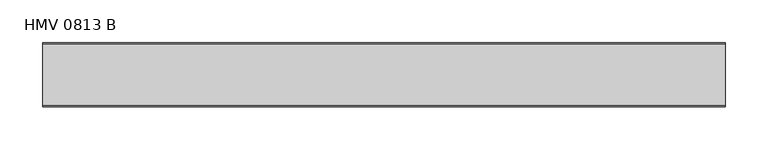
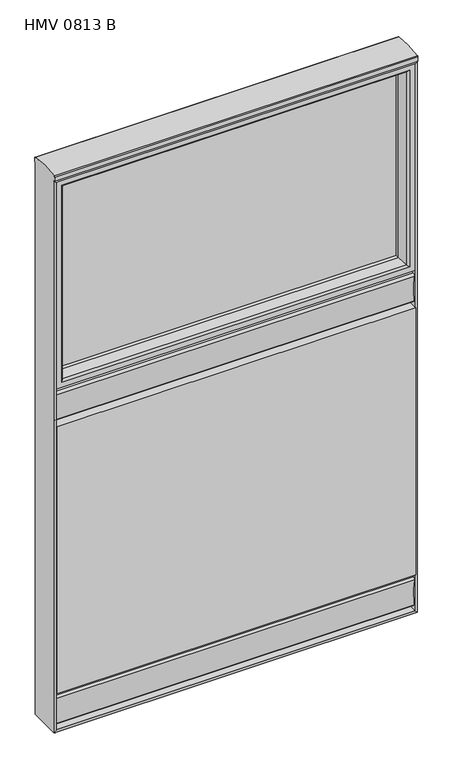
"""IFC4 building model written with IfcOpenShell, lengths in millimetres: furniture geometry, Mobiliário_MobiliáriodeEscritório_LinhaHabitat_PainelHabitatMisto-MelaminaeVidroBasculante1Lado_Marelli : HMV 0813 B."""

from ifc_helpers import new_model, si_unit, point, frame, frame_2d, origin, place, context, project, spatial, polyline, circle_curve, ellipse_curve, trimmed, segment, composite_curve, outline, extrude, source, transform, mapped, element, save
from ifc_brep_helpers import plane_surface, cylinder_surface, advanced_brep


def hmv_0813_b_0aa352a4(model_context):
    return source(origin(), model_context, "Body", "SolidModel", [
        extrude(outline(composite_curve([segment(polyline([(55.0, 90.0), (55.0, 80.0), (65.980067, 80.0)]), True, "CONTINUOUS"), segment(trimmed(circle_curve(frame_2d((65.980067, 75.980067)), 4.019933), [point((65.980067, 80.0))], [point((69.831007, 74.8267575))], False, "CARTESIAN"), True, "CONTINUOUS"), segment(trimmed(circle_curve(frame_2d((200.7096213, 43.9493843)), 134.4716471), [point((69.831007, 74.8267575))], [point((68.9861321, 16.9022723))], True, "CARTESIAN"), True, "CONTINUOUS"), segment(trimmed(circle_curve(frame_2d((67.0270055, 16.5)), 2.0), [point((68.9861321, 16.9022723))], [point((67.0270055, 14.5))], False, "CARTESIAN"), True, "CONTINUOUS"), segment(polyline([(67.0270055, 14.5), (55.0, 14.5), (55.0, 4.5), (20.0, 4.5), (20.0, 14.5), (7.9729945, 14.5)]), True, "CONTINUOUS"), segment(trimmed(circle_curve(frame_2d((7.9729945, 16.5)), 2.0), [point((7.9729945, 14.5))], [point((6.0138679, 16.9022723))], False, "CARTESIAN"), True, "CONTINUOUS"), segment(trimmed(circle_curve(frame_2d((-125.7096213, 43.9493843)), 134.4716471), [point((6.0138679, 16.9022723))], [point((5.168993, 74.8267575))], True, "CARTESIAN"), True, "CONTINUOUS"), segment(trimmed(circle_curve(frame_2d((9.019933, 75.980067)), 4.019933), [point((5.168993, 74.8267575))], [point((9.019933, 80.0))], False, "CARTESIAN"), True, "CONTINUOUS"), segment(polyline([(9.019933, 80.0), (20.0, 80.0), (20.0, 90.0), (55.0, 90.0)]), True, "CONTINUOUS")], self_intersect=False)), frame((4.5, 0.0, 0.0), z_axis=(1.0, 0.0, 0.0), x_axis=(0.0, 1.0, 0.0)), (0.0, 0.0, 1.0), 791.0),
        advanced_brep(
        [(0.0, 0.0, 1284.4135569), (0.0, 0.0, 1294.184829), (0.0, 1.4147018, 1296.2946718), (0.0, 73.7415241, 1296.2666026), (0.0, 75.0, 1294.2721511), (0.0, 75.0, 1284.4135569), (0.0, 72.75, 1284.4135569), (0.0, 72.75, 0.0), (0.0, 2.25, 0.0), (0.0, 2.25, 1284.4135569), (800.0, 75.0, 1284.4135569), (800.0, 75.0, 1294.2721511), (800.0, 73.7415241, 1296.2666026), (800.0, 1.4147018, 1296.2946718), (800.0, 0.0, 1294.184829), (800.0, 0.0, 1284.4135569), (800.0, 2.25, 1284.4135569), (800.0, 2.25, 0.0), (800.0, 72.75, 0.0), (800.0, 72.75, 1284.4135569), (4.5, 72.75, 4.5), (795.5, 72.75, 4.5), (795.5, 2.25, 4.5), (4.5, 2.25, 4.5), (795.5, 72.75, 1279.9135569), (795.5, 2.25, 1279.9135569), (4.5, 72.75, 1279.9135569), (4.5, 2.25, 1279.9135569)],
        [
            (0, 1),
            (1, 2, circle_curve(frame((0.0, 2.2806283, 1294.184829), z_axis=(-1.0, 0.0, 0.0), x_axis=(0.0, 1.0, 0.0)), 2.2806283)),
            (2, 3, circle_curve(frame((0.0, 37.5106051, 1122.3310283), z_axis=(-1.0, 0.0, 0.0), x_axis=(0.0, 1.0, 0.0)), 177.6689717)),
            (3, 4, circle_curve(frame((0.0, 72.7903437, 1294.2721511), z_axis=(-1.0, 0.0, 0.0), x_axis=(0.0, 1.0, 0.0)), 2.2096563)),
            (4, 5),
            (5, 6),
            (6, 7),
            (7, 8),
            (8, 9),
            (9, 0),
            (10, 11),
            (11, 12, circle_curve(frame((800.0, 72.7903437, 1294.2721511), z_axis=(1.0, 0.0, 0.0), x_axis=(0.0, 1.0, 0.0)), 2.2096563)),
            (12, 13, circle_curve(frame((800.0, 37.5106051, 1122.3310283), z_axis=(1.0, 0.0, 0.0), x_axis=(0.0, 1.0, 0.0)), 177.6689717)),
            (13, 14, circle_curve(frame((800.0, 2.2806283, 1294.184829), z_axis=(1.0, 0.0, 0.0), x_axis=(0.0, 1.0, 0.0)), 2.2806283)),
            (14, 15),
            (15, 16),
            (16, 17),
            (17, 18),
            (18, 19),
            (19, 10),
            (4, 11),
            (10, 5),
            (3, 12),
            (2, 13),
            (1, 14),
            (0, 15),
            (19, 6),
            (9, 16),
            (7, 20, ellipse_curve(frame((2.25, 72.75, 2.25), z_axis=(0.7071067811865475, 0.0, -0.7071067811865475), x_axis=(-0.7071067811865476, 0.0, -0.7071067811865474)), 3.1819805, 2.25)),
            (20, 21),
            (21, 18, ellipse_curve(frame((797.75, 72.75, 2.25), z_axis=(-0.7071067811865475, 0.0, -0.7071067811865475), x_axis=(-0.7071067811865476, 0.0, 0.7071067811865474)), 3.1819805, 2.25)),
            (18, 7),
            (17, 8),
            (17, 22, ellipse_curve(frame((797.75, 2.25, 2.25), z_axis=(-0.7071067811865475, 0.0, -0.7071067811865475), x_axis=(-0.7071067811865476, 0.0, 0.7071067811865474)), 3.1819805, 2.25)),
            (22, 23),
            (23, 8, ellipse_curve(frame((2.25, 2.25, 2.25), z_axis=(0.7071067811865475, 0.0, -0.7071067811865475), x_axis=(-0.7071067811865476, 0.0, -0.7071067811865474)), 3.1819805, 2.25)),
            (20, 23),
            (22, 21),
            (21, 24),
            (24, 19, ellipse_curve(frame((797.75, 72.75, 1282.1635569), z_axis=(0.7071067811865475, 0.0, -0.7071067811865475), x_axis=(-0.7071067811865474, 0.0, -0.7071067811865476)), 3.1819805, 2.25)),
            (16, 25, ellipse_curve(frame((797.75, 2.25, 1282.1635569), z_axis=(0.7071067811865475, 0.0, -0.7071067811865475), x_axis=(-0.7071067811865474, 0.0, -0.7071067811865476)), 3.1819805, 2.25)),
            (25, 22),
            (25, 24),
            (24, 26),
            (26, 6, ellipse_curve(frame((2.25, 72.75, 1282.1635569), z_axis=(0.7071067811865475, 0.0, 0.7071067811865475), x_axis=(0.7071067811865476, 0.0, -0.7071067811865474)), 3.1819805, 2.25)),
            (9, 27, ellipse_curve(frame((2.25, 2.25, 1282.1635569), z_axis=(0.7071067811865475, 0.0, 0.7071067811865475), x_axis=(0.7071067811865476, 0.0, -0.7071067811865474)), 3.1819805, 2.25)),
            (27, 25),
            (27, 26),
            (26, 20),
            (23, 27),
        ],
        [
            plane_surface(frame((0.0, 75.0, 1294.2721511), z_axis=(-1.0, 0.0, 0.0), x_axis=(0.0, 0.0, -1.0))),
            plane_surface(frame((800.0, 75.0, 1294.2721511), z_axis=(1.0, 0.0, 0.0), x_axis=(0.0, 0.0, 1.0))),
            plane_surface(frame((800.0, 75.0, 1284.4135569), z_axis=(0.0, 1.0, 0.0), x_axis=(-1.0, 0.0, 0.0))),
            cylinder_surface(frame((0.0, 72.7903437, 1294.2721511), z_axis=(1.0, 0.0, 0.0), x_axis=(0.0, 1.0, 0.0)), 2.2096563),
            cylinder_surface(frame((0.0, 37.5106051, 1122.3310283), z_axis=(1.0, 0.0, 0.0), x_axis=(0.0, 1.0, 0.0)), 177.6689717),
            cylinder_surface(frame((0.0, 2.2806283, 1294.184829), z_axis=(1.0, 0.0, 0.0), x_axis=(0.0, 1.0, 0.0)), 2.2806283),
            plane_surface(frame((800.0, 0.0, 1294.184829), z_axis=(0.0, -1.0, 0.0), x_axis=(-1.0, 0.0, 0.0))),
            plane_surface(frame((800.0, 0.0, 1284.4135569), z_axis=(0.0, 0.0, -1.0), x_axis=(-1.0, 0.0, 0.0))),
            cylinder_surface(frame((0.0, 72.75, 2.25), z_axis=(-1.0, 0.0, 0.0), x_axis=(0.0, -1.0, 0.0)), 2.25),
            plane_surface(frame((0.0, 72.75, 0.0), z_axis=(0.0, 0.0, -1.0), x_axis=(1.0, 0.0, 0.0))),
            cylinder_surface(frame((0.0, 2.25, 2.25), z_axis=(-1.0, 0.0, 0.0), x_axis=(0.0, -1.0, 0.0)), 2.25),
            plane_surface(frame((4.5, 2.25, 4.5), z_axis=(0.0, 0.0, 1.0), x_axis=(1.0, 0.0, 0.0))),
            cylinder_surface(frame((797.75, 72.75, 0.0), z_axis=(0.0, 0.0, -1.0), x_axis=(0.0, -1.0, 0.0)), 2.25),
            cylinder_surface(frame((797.75, 2.25, 0.0), z_axis=(0.0, 0.0, -1.0), x_axis=(0.0, -1.0, 0.0)), 2.25),
            plane_surface(frame((795.5, 2.25, 4.5), z_axis=(-1.0, 0.0, 0.0), x_axis=(0.0, 0.0, 1.0))),
            cylinder_surface(frame((800.0, 72.75, 1282.1635569), z_axis=(1.0, 0.0, 0.0), x_axis=(0.0, -1.0, 0.0)), 2.25),
            cylinder_surface(frame((800.0, 2.25, 1282.1635569), z_axis=(1.0, 0.0, 0.0), x_axis=(0.0, -1.0, 0.0)), 2.25),
            plane_surface(frame((795.5, 2.25, 1279.9135569), z_axis=(0.0, 0.0, -1.0), x_axis=(-1.0, 0.0, 0.0))),
            cylinder_surface(frame((2.25, 72.75, 1284.4135569), z_axis=(0.0, 0.0, 1.0), x_axis=(0.0, -1.0, 0.0)), 2.25),
            cylinder_surface(frame((2.25, 2.25, 1284.4135569), z_axis=(0.0, 0.0, 1.0), x_axis=(0.0, -1.0, 0.0)), 2.25),
            plane_surface(frame((4.5, 2.25, 1279.9135569), z_axis=(1.0, 0.0, 0.0), x_axis=(0.0, 0.0, -1.0))),
        ],
        [
            (0, [[1, 2, 3, 4, 5, 6, 7, 8, 9, 10]]),
            (1, [[11, 12, 13, 14, 15, 16, 17, 18, 19, 20]]),
            (2, [[-5, 21, -11, 22]]),
            (3, [[-4, 23, -12, -21]]),
            (4, [[-3, 24, -13, -23]]),
            (5, [[-2, 25, -14, -24]]),
            (6, [[-1, 26, -15, -25]]),
            (7, [[-22, -20, 27, -6]]),
            (7, [[-26, -10, 28, -16]]),
            (8, [[29, 30, 31, 32]]),
            (9, [[-32, -18, 33, -8]]),
            (10, [[-33, 34, 35, 36]]),
            (11, [[-30, 37, -35, 38]]),
            (12, [[-31, 39, 40, -19]]),
            (13, [[-34, -17, 41, 42]]),
            (14, [[-38, -42, 43, -39]]),
            (15, [[-40, 44, 45, -27]]),
            (16, [[-41, -28, 46, 47]]),
            (17, [[-43, -47, 48, -44]]),
            (18, [[-29, -7, -45, 49]]),
            (19, [[-36, 50, -46, -9]]),
            (20, [[-37, -49, -48, -50]]),
        ],
    ),
        extrude(outline(composite_curve([segment(polyline([(55.0, 797.5), (55.0, 787.5), (65.980067, 787.5)]), True, "CONTINUOUS"), segment(trimmed(circle_curve(frame_2d((65.980067, 783.480067)), 4.019933), [point((65.980067, 787.5))], [point((69.831007, 782.3267575))], False, "CARTESIAN"), True, "CONTINUOUS"), segment(trimmed(circle_curve(frame_2d((200.7096213, 751.4493843)), 134.4716471), [point((69.831007, 782.3267575))], [point((68.9861321, 724.4022723))], True, "CARTESIAN"), True, "CONTINUOUS"), segment(trimmed(circle_curve(frame_2d((67.0270055, 724.0)), 2.0), [point((68.9861321, 724.4022723))], [point((67.0270055, 722.0))], False, "CARTESIAN"), True, "CONTINUOUS"), segment(polyline([(67.0270055, 722.0), (55.0, 722.0), (55.0, 712.0), (20.0, 712.0), (20.0, 722.0), (7.9729945, 722.0)]), True, "CONTINUOUS"), segment(trimmed(circle_curve(frame_2d((7.9729945, 724.0)), 2.0), [point((7.9729945, 722.0))], [point((6.0138679, 724.4022723))], False, "CARTESIAN"), True, "CONTINUOUS"), segment(trimmed(circle_curve(frame_2d((-125.7096213, 751.4493843)), 134.4716471), [point((6.0138679, 724.4022723))], [point((5.168993, 782.3267575))], True, "CARTESIAN"), True, "CONTINUOUS"), segment(trimmed(circle_curve(frame_2d((9.019933, 783.480067)), 4.019933), [point((5.168993, 782.3267575))], [point((9.019933, 787.5))], False, "CARTESIAN"), True, "CONTINUOUS"), segment(polyline([(9.019933, 787.5), (20.0, 787.5), (20.0, 797.5), (55.0, 797.5)]), True, "CONTINUOUS")], self_intersect=False)), frame((4.5, 0.0, 0.0), z_axis=(1.0, 0.0, 0.0), x_axis=(0.0, 1.0, 0.0)), (0.0, 0.0, 1.0), 791.0),
        extrude(outline(polyline([(0.0, 712.0), (70.0, 712.0), (70.0, 797.5), (75.0, 797.5), (75.0, 712.0), (75.0, 90.0), (0.0, 90.0), (0.0, 712.0)])), frame((4.5, 0.0, 0.0), z_axis=(1.0, 0.0, 0.0), x_axis=(0.0, 1.0, 0.0)), (0.0, 0.0, 1.0), 791.0),
        advanced_brep(
        [(795.5, 2.5, 797.5), (795.5, 72.5, 797.5), (795.5, 72.5, 1279.9135569), (795.5, 2.5, 1279.9135569), (779.3, 6.3, 813.7), (783.1, 2.5, 809.9), (783.1, 2.5, 1267.5135569), (779.3, 6.3, 1263.7135569), (773.0, 27.5, 820.0), (773.0, 27.5, 1257.4135569), (773.0, 47.5, 820.0), (773.0, 47.5, 1257.4135569), (779.3, 68.7, 813.7), (779.3, 68.7, 1263.7135569), (783.1, 72.5, 809.9), (783.1, 72.5, 1267.5135569), (4.5, 72.5, 1279.9135569), (4.5, 2.5, 1279.9135569), (16.9, 2.5, 1267.5135569), (20.7, 6.3, 1263.7135569), (27.0, 27.5, 1257.4135569), (27.0, 47.5, 1257.4135569), (20.7, 68.7, 1263.7135569), (16.9, 72.5, 1267.5135569), (4.5, 72.5, 797.5), (4.5, 2.5, 797.5), (16.9, 2.5, 809.9), (20.7, 6.3, 813.7), (27.0, 27.5, 820.0), (27.0, 47.5, 820.0), (20.7, 68.7, 813.7), (16.9, 72.5, 809.9)],
        [
            (0, 1),
            (1, 2),
            (2, 3),
            (3, 0),
            (4, 5, ellipse_curve(frame((785.2236888, 8.4236888, 807.7763112), z_axis=(0.7071067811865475, 0.0, 0.7071067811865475), x_axis=(0.7071067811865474, 0.0, -0.7071067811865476)), 8.8994542, 6.2928644)),
            (5, 6),
            (6, 7, ellipse_curve(frame((785.2236888, 8.4236888, 1269.6372457), z_axis=(0.7071067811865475, 0.0, -0.7071067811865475), x_axis=(-0.7071067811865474, 0.0, -0.7071067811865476)), 8.8994542, 6.2928644)),
            (7, 4),
            (8, 4),
            (7, 9),
            (9, 8),
            (10, 8),
            (9, 11),
            (11, 10),
            (12, 10),
            (11, 13),
            (13, 12),
            (14, 12, ellipse_curve(frame((785.2236888, 66.5763112, 807.7763112), z_axis=(0.7071067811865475, 0.0, 0.7071067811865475), x_axis=(0.7071067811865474, 0.0, -0.7071067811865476)), 8.8994542, 6.2928644)),
            (13, 15, ellipse_curve(frame((785.2236888, 66.5763112, 1269.6372457), z_axis=(0.7071067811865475, 0.0, -0.7071067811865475), x_axis=(-0.7071067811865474, 0.0, -0.7071067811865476)), 8.8994542, 6.2928644)),
            (15, 14),
            (2, 16),
            (16, 17),
            (17, 3),
            (6, 18),
            (18, 19, ellipse_curve(frame((14.7763112, 8.4236888, 1269.6372457), z_axis=(0.7071067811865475, 0.0, 0.7071067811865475), x_axis=(0.7071067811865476, 0.0, -0.7071067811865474)), 8.8994542, 6.2928644)),
            (19, 7),
            (19, 20),
            (20, 9),
            (20, 21),
            (21, 11),
            (21, 22),
            (22, 13),
            (22, 23, ellipse_curve(frame((14.7763112, 66.5763112, 1269.6372457), z_axis=(0.7071067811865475, 0.0, 0.7071067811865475), x_axis=(0.7071067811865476, 0.0, -0.7071067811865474)), 8.8994542, 6.2928644)),
            (23, 15),
            (16, 24),
            (24, 25),
            (25, 17),
            (18, 26),
            (26, 27, ellipse_curve(frame((14.7763112, 8.4236888, 807.7763112), z_axis=(-0.7071067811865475, 0.0, 0.7071067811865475), x_axis=(0.7071067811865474, 0.0, 0.7071067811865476)), 8.8994542, 6.2928644)),
            (27, 19),
            (27, 28),
            (28, 20),
            (28, 29),
            (29, 21),
            (29, 30),
            (30, 22),
            (30, 31, ellipse_curve(frame((14.7763112, 66.5763112, 807.7763112), z_axis=(-0.7071067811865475, 0.0, 0.7071067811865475), x_axis=(0.7071067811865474, 0.0, 0.7071067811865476)), 8.8994542, 6.2928644)),
            (31, 23),
            (24, 1),
            (0, 25),
            (5, 26),
            (4, 27),
            (8, 28),
            (10, 29),
            (12, 30),
            (14, 31),
        ],
        [
            plane_surface(frame((795.5, 72.5, 797.5), z_axis=(1.0, 0.0, 0.0), x_axis=(0.0, 0.0, 1.0))),
            cylinder_surface(frame((785.2236888, 8.4236888, 797.5), z_axis=(0.0, 0.0, -1.0), x_axis=(-1.0, 0.0, 0.0)), 6.2928644),
            plane_surface(frame((779.3, 6.3, 813.7), z_axis=(-0.9585697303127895, -0.2848579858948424, 0.0), x_axis=(0.0, 0.0, 1.0))),
            plane_surface(frame((773.0, 27.5, 820.0), z_axis=(-1.0, 0.0, 0.0), x_axis=(0.0, 0.0, 1.0))),
            plane_surface(frame((773.0, 47.5, 820.0), z_axis=(-0.9585697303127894, 0.2848579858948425, 0.0), x_axis=(0.0, 0.0, 1.0))),
            cylinder_surface(frame((785.2236888, 66.5763112, 797.5), z_axis=(0.0, 0.0, -1.0), x_axis=(-1.0, 0.0, 0.0)), 6.2928644),
            plane_surface(frame((795.5, 72.5, 1279.9135569), z_axis=(0.0, 0.0, 1.0), x_axis=(-1.0, 0.0, 0.0))),
            cylinder_surface(frame((795.5, 8.4236888, 1269.6372457), z_axis=(1.0, 0.0, 0.0), x_axis=(0.0, 0.0, -1.0)), 6.2928644),
            plane_surface(frame((779.3, 6.3, 1263.7135569), z_axis=(0.0, -0.2848579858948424, -0.9585697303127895), x_axis=(-1.0, 0.0, 0.0))),
            plane_surface(frame((773.0, 27.5, 1257.4135569), z_axis=(0.0, 0.0, -1.0), x_axis=(-1.0, 0.0, 0.0))),
            plane_surface(frame((773.0, 47.5, 1257.4135569), z_axis=(0.0, 0.2848579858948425, -0.9585697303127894), x_axis=(-1.0, 0.0, 0.0))),
            cylinder_surface(frame((795.5, 66.5763112, 1269.6372457), z_axis=(1.0, 0.0, 0.0), x_axis=(0.0, 0.0, -1.0)), 6.2928644),
            plane_surface(frame((4.5, 72.5, 1279.9135569), z_axis=(-1.0, 0.0, 0.0), x_axis=(0.0, 0.0, -1.0))),
            cylinder_surface(frame((14.7763112, 8.4236888, 1279.9135569), z_axis=(0.0, 0.0, 1.0), x_axis=(1.0, 0.0, 0.0)), 6.2928644),
            plane_surface(frame((20.7, 6.3, 1263.7135569), z_axis=(0.9585697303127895, -0.2848579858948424, 0.0), x_axis=(0.0, 0.0, -1.0))),
            plane_surface(frame((27.0, 27.5, 1257.4135569), z_axis=(1.0, 0.0, 0.0), x_axis=(0.0, 0.0, -1.0))),
            plane_surface(frame((27.0, 47.5, 1257.4135569), z_axis=(0.9585697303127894, 0.2848579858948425, 0.0), x_axis=(0.0, 0.0, -1.0))),
            cylinder_surface(frame((14.7763112, 66.5763112, 1279.9135569), z_axis=(0.0, 0.0, 1.0), x_axis=(1.0, 0.0, 0.0)), 6.2928644),
            plane_surface(frame((4.5, 72.5, 797.5), z_axis=(0.0, 0.0, -1.0), x_axis=(1.0, 0.0, 0.0))),
            plane_surface(frame((4.5, 2.5, 797.5), z_axis=(0.0, -1.0, 0.0), x_axis=(1.0, 0.0, 0.0))),
            cylinder_surface(frame((4.5, 8.4236888, 807.7763112), z_axis=(-1.0, 0.0, 0.0), x_axis=(0.0, 0.0, 1.0)), 6.2928644),
            plane_surface(frame((20.7, 6.3, 813.7), z_axis=(0.0, -0.2848579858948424, 0.9585697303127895), x_axis=(1.0, 0.0, 0.0))),
            plane_surface(frame((27.0, 27.5, 820.0), z_axis=(0.0, 0.0, 1.0), x_axis=(1.0, 0.0, 0.0))),
            plane_surface(frame((27.0, 47.5, 820.0), z_axis=(0.0, 0.2848579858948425, 0.9585697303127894), x_axis=(1.0, 0.0, 0.0))),
            cylinder_surface(frame((4.5, 66.5763112, 807.7763112), z_axis=(-1.0, 0.0, 0.0), x_axis=(0.0, 0.0, 1.0)), 6.2928644),
            plane_surface(frame((16.9, 72.5, 809.9), z_axis=(0.0, 1.0, 0.0), x_axis=(1.0, 0.0, 0.0))),
        ],
        [
            (0, [[1, 2, 3, 4]]),
            (1, [[5, 6, 7, 8]]),
            (2, [[9, -8, 10, 11]]),
            (3, [[12, -11, 13, 14]]),
            (4, [[15, -14, 16, 17]]),
            (5, [[18, -17, 19, 20]]),
            (6, [[-3, 21, 22, 23]]),
            (7, [[-7, 24, 25, 26]]),
            (8, [[-10, -26, 27, 28]]),
            (9, [[-13, -28, 29, 30]]),
            (10, [[-16, -30, 31, 32]]),
            (11, [[-19, -32, 33, 34]]),
            (12, [[-22, 35, 36, 37]]),
            (13, [[-25, 38, 39, 40]]),
            (14, [[-27, -40, 41, 42]]),
            (15, [[-29, -42, 43, 44]]),
            (16, [[-31, -44, 45, 46]]),
            (17, [[-33, -46, 47, 48]]),
            (18, [[-36, 49, -1, 50]]),
            (19, [[-23, -37, -50, -4], [51, -38, -24, -6]]),
            (20, [[-39, -51, -5, 52]]),
            (21, [[-41, -52, -9, 53]]),
            (22, [[-43, -53, -12, 54]]),
            (23, [[-45, -54, -15, 55]]),
            (24, [[-47, -55, -18, 56]]),
            (25, [[-49, -35, -21, -2], [-34, -48, -56, -20]]),
        ],
    ),
        extrude(outline(polyline([(773.0, 35.5), (27.0, 35.5), (27.0, 39.5), (773.0, 39.5), (773.0, 35.5)])), frame((0.0, 0.0, 820.0), z_axis=(0.0, 0.0, 1.0), x_axis=(1.0, 0.0, 0.0)), (0.0, 0.0, 1.0), 437.4135569),
    ])


if __name__ == "__main__":
    model = new_model("IFC4")
    model_context = context("Model", 3, world=origin())
    ifc_project = project(units=[si_unit("LENGTHUNIT", "METRE", prefix="MILLI")], contexts=[model_context])
    site = spatial("IfcSite", under=ifc_project)
    building = spatial("IfcBuilding", under=site)
    placement = place(None, origin())
    hmv_0813_b_shape = hmv_0813_b_0aa352a4(model_context)
    element("IfcFurniture", 1, ObjectType="Mobiliário_MobiliáriodeEscritório_LinhaHabitat_PainelHabitatMisto-MelaminaeVidroBasculante1Lado_Marelli : HMV 0813 B", at=placement, inside=building, context=model_context, shape_type="MappedRepresentation", body=[
        mapped(hmv_0813_b_shape, transform((0.0, 0.0, 0.0), x_axis=(1.0, 0.0, 0.0), y_axis=(0.0, 1.0, 0.0), z_axis=(0.0, 0.0, 1.0))),
    ])
    save(model, "model.ifc")
